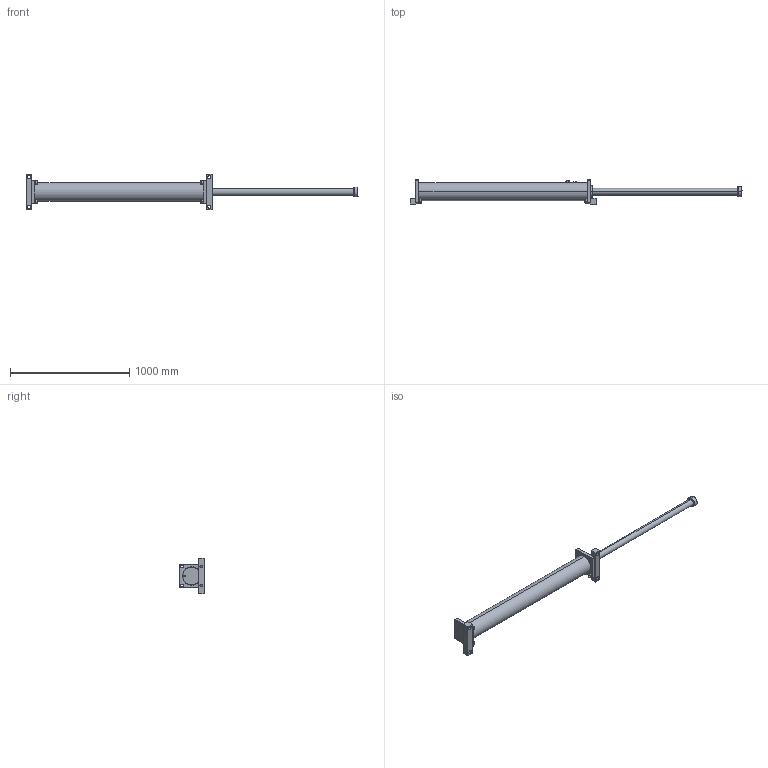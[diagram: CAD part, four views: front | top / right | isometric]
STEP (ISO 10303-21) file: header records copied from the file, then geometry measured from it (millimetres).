
FILE_DESCRIPTION (( 'STEP AP214' ), '1' );
FILE_NAME ('LDD3.5X48.STEP', '2019-01-16T08:28:07', ( 'user' ), ( 'Microsoft' ), 'SwSTEP 2.0', 'SolidWorks 2016', '' );
FILE_SCHEMA (( 'AUTOMOTIVE_DESIGN' ));
Length unit declared in the file: inch
Products named in the file (1): LDD3.5X48
Bounding box: 2789.4 x 205 x 300 mm (x, y, z)
Surface area: 1294396 mm2 (no closed solid volume)
Topology: 0 solids, 22 shells, 252 faces, 722 edges, 494 vertices
Faces by surface type: plane 87, cylinder 82, cone 51, bspline 32
Entity records: 15269 total; most frequent: CARTESIAN_POINT 8714, DIRECTION 1380, ORIENTED_EDGE 1266, EDGE_CURVE 722, AXIS2_PLACEMENT_3D 541, VERTEX_POINT 494, CIRCLE 320, EDGE_LOOP 310
